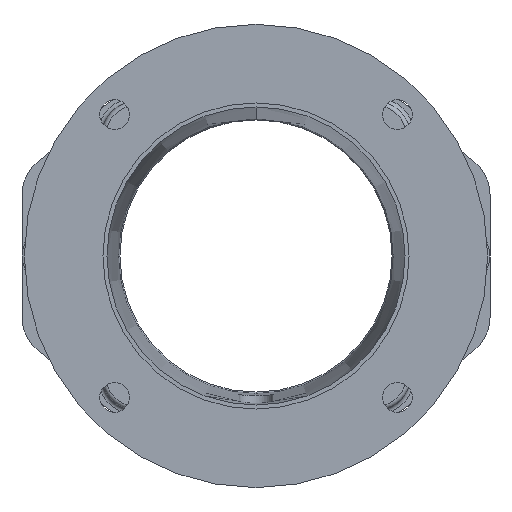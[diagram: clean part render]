
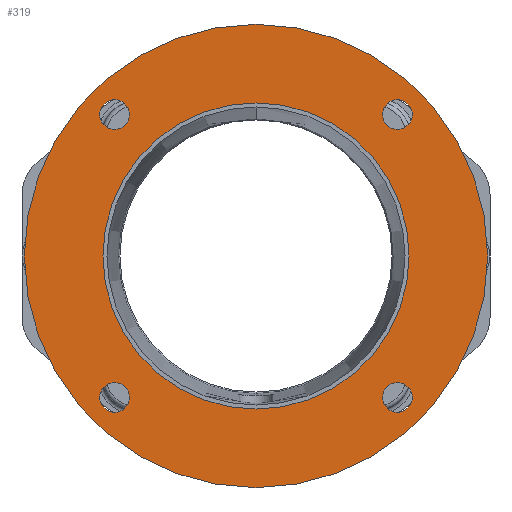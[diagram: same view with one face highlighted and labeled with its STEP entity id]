
A CAD part, front view. The second image highlights one B-rep face of the part: STEP entity #319.
In plain terms, the highlighted planar face has unit normal (0, -1, 0).
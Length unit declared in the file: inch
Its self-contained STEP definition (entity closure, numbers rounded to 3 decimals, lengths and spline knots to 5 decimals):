
#49 = EDGE_CURVE ( 'NONE', #2456, #4057, #2791, .T. ) ;
#71 = ORIENTED_EDGE ( 'NONE', *, *, #1820, .F. ) ;
#183 = EDGE_CURVE ( 'NONE', #227, #3077, #5068, .T. ) ;
#227 = VERTEX_POINT ( 'NONE', #3120 ) ;
#278 = CARTESIAN_POINT ( 'NONE',  ( 0., 0., 0. ) ) ;
#319 = ADVANCED_FACE ( 'NONE', ( #3147, #4071, #1936, #2858, #1650, #458 ), #4528, .F. ) ;
#329 = CARTESIAN_POINT ( 'NONE',  ( 2.07889, 0., 2.07889 ) ) ;
#411 = CIRCLE ( 'NONE', #3106, 2.2505 ) ;
#458 = FACE_OUTER_BOUND ( 'NONE', #5434, .T. ) ;
#471 = CARTESIAN_POINT ( 'NONE',  ( 2.07889, 0., -2.29764 ) ) ;
#532 = ORIENTED_EDGE ( 'NONE', *, *, #183, .F. ) ;
#569 = CARTESIAN_POINT ( 'NONE',  ( 0., 0., 3.405 ) ) ;
#625 = EDGE_LOOP ( 'NONE', ( #5573, #3319 ) ) ;
#686 = DIRECTION ( 'NONE',  ( 0., -1., 0. ) ) ;
#733 = ORIENTED_EDGE ( 'NONE', *, *, #49, .F. ) ;
#740 = CARTESIAN_POINT ( 'NONE',  ( -2.07889, 0., -2.07889 ) ) ;
#741 = DIRECTION ( 'NONE',  ( 0., 0., -1. ) ) ;
#761 = VERTEX_POINT ( 'NONE', #1082 ) ;
#789 = DIRECTION ( 'NONE',  ( 0., 0., -1. ) ) ;
#871 = DIRECTION ( 'NONE',  ( 0., -1., 0. ) ) ;
#924 = CARTESIAN_POINT ( 'NONE',  ( -2.19684, 0., 0. ) ) ;
#1038 = EDGE_CURVE ( 'NONE', #4057, #2456, #2195, .T. ) ;
#1053 = AXIS2_PLACEMENT_3D ( 'NONE', #924, #1824, #5005 ) ;
#1082 = CARTESIAN_POINT ( 'NONE',  ( -2.07889, 0., 1.86014 ) ) ;
#1100 = CARTESIAN_POINT ( 'NONE',  ( -2.07889, 0., 2.07889 ) ) ;
#1103 = EDGE_LOOP ( 'NONE', ( #2774, #733 ) ) ;
#1143 = AXIS2_PLACEMENT_3D ( 'NONE', #278, #3439, #741 ) ;
#1144 = EDGE_CURVE ( 'NONE', #4096, #3041, #1490, .T. ) ;
#1225 = CARTESIAN_POINT ( 'NONE',  ( -2.07889, 0., -2.07889 ) ) ;
#1322 = EDGE_CURVE ( 'NONE', #4878, #761, #4116, .T. ) ;
#1353 = VERTEX_POINT ( 'NONE', #4114 ) ;
#1490 = CIRCLE ( 'NONE', #5377, 0.21875 ) ;
#1541 = DIRECTION ( 'NONE',  ( 0., 0., -1. ) ) ;
#1545 = EDGE_CURVE ( 'NONE', #761, #4878, #2049, .T. ) ;
#1622 = CARTESIAN_POINT ( 'NONE',  ( 0., 0., 0. ) ) ;
#1650 = FACE_BOUND ( 'NONE', #4463, .T. ) ;
#1679 = DIRECTION ( 'NONE',  ( 0., 0., -1. ) ) ;
#1704 = EDGE_CURVE ( 'NONE', #3673, #3948, #4825, .T. ) ;
#1820 = EDGE_CURVE ( 'NONE', #3077, #227, #3326, .T. ) ;
#1824 = DIRECTION ( 'NONE',  ( 0., 1., 0. ) ) ;
#1936 = FACE_BOUND ( 'NONE', #1103, .T. ) ;
#2049 = CIRCLE ( 'NONE', #2706, 0.21875 ) ;
#2059 = AXIS2_PLACEMENT_3D ( 'NONE', #740, #4258, #2153 ) ;
#2070 = DIRECTION ( 'NONE',  ( 0., -1., 0. ) ) ;
#2075 = DIRECTION ( 'NONE',  ( 0., 0., -1. ) ) ;
#2153 = DIRECTION ( 'NONE',  ( 0., 0., -1. ) ) ;
#2195 = CIRCLE ( 'NONE', #2938, 0.21875 ) ;
#2248 = DIRECTION ( 'NONE',  ( 0., -1., 0. ) ) ;
#2276 = EDGE_CURVE ( 'NONE', #3041, #4096, #2970, .T. ) ;
#2279 = CARTESIAN_POINT ( 'NONE',  ( 2.07889, 0., 2.29764 ) ) ;
#2298 = CIRCLE ( 'NONE', #1143, 3.405 ) ;
#2318 = CARTESIAN_POINT ( 'NONE',  ( -2.07889, 0., 2.07889 ) ) ;
#2437 = CIRCLE ( 'NONE', #2438, 3.405 ) ;
#2438 = AXIS2_PLACEMENT_3D ( 'NONE', #3384, #686, #3847 ) ;
#2456 = VERTEX_POINT ( 'NONE', #3208 ) ;
#2516 = CARTESIAN_POINT ( 'NONE',  ( 2.07889, 0., -2.07889 ) ) ;
#2538 = CARTESIAN_POINT ( 'NONE',  ( 2.07889, 0., 2.07889 ) ) ;
#2706 = AXIS2_PLACEMENT_3D ( 'NONE', #1100, #4270, #1541 ) ;
#2774 = ORIENTED_EDGE ( 'NONE', *, *, #1038, .F. ) ;
#2778 = DIRECTION ( 'NONE',  ( 0., 0., -1. ) ) ;
#2791 = CIRCLE ( 'NONE', #5537, 0.21875 ) ;
#2858 = FACE_BOUND ( 'NONE', #4081, .T. ) ;
#2904 = AXIS2_PLACEMENT_3D ( 'NONE', #1622, #4801, #2075 ) ;
#2938 = AXIS2_PLACEMENT_3D ( 'NONE', #4987, #2248, #5444 ) ;
#2962 = DIRECTION ( 'NONE',  ( 0., 0., -1. ) ) ;
#2970 = CIRCLE ( 'NONE', #4817, 0.21875 ) ;
#3004 = DIRECTION ( 'NONE',  ( 0., 0., -1. ) ) ;
#3041 = VERTEX_POINT ( 'NONE', #2279 ) ;
#3077 = VERTEX_POINT ( 'NONE', #3221 ) ;
#3106 = AXIS2_PLACEMENT_3D ( 'NONE', #3580, #871, #4035 ) ;
#3120 = CARTESIAN_POINT ( 'NONE',  ( -2.07889, 0., -1.86014 ) ) ;
#3147 = FACE_BOUND ( 'NONE', #4380, .T. ) ;
#3208 = CARTESIAN_POINT ( 'NONE',  ( 2.07889, 0., -1.86014 ) ) ;
#3221 = CARTESIAN_POINT ( 'NONE',  ( -2.07889, 0., -2.29764 ) ) ;
#3265 = EDGE_CURVE ( 'NONE', #1353, #5031, #2437, .T. ) ;
#3319 = ORIENTED_EDGE ( 'NONE', *, *, #2276, .F. ) ;
#3326 = CIRCLE ( 'NONE', #4731, 0.21875 ) ;
#3384 = CARTESIAN_POINT ( 'NONE',  ( 0., 0., 0. ) ) ;
#3439 = DIRECTION ( 'NONE',  ( 0., -1., 0. ) ) ;
#3489 = DIRECTION ( 'NONE',  ( 0., -1., 0. ) ) ;
#3580 = CARTESIAN_POINT ( 'NONE',  ( 0., 0., 0. ) ) ;
#3614 = ORIENTED_EDGE ( 'NONE', *, *, #1322, .F. ) ;
#3673 = VERTEX_POINT ( 'NONE', #3765 ) ;
#3675 = ORIENTED_EDGE ( 'NONE', *, *, #5183, .T. ) ;
#3765 = CARTESIAN_POINT ( 'NONE',  ( 0., 0., -2.2505 ) ) ;
#3847 = DIRECTION ( 'NONE',  ( 0., 0., -1. ) ) ;
#3948 = VERTEX_POINT ( 'NONE', #4955 ) ;
#4010 = ORIENTED_EDGE ( 'NONE', *, *, #3265, .T. ) ;
#4035 = DIRECTION ( 'NONE',  ( 0., 0., -1. ) ) ;
#4057 = VERTEX_POINT ( 'NONE', #471 ) ;
#4071 = FACE_BOUND ( 'NONE', #625, .T. ) ;
#4081 = EDGE_LOOP ( 'NONE', ( #71, #532 ) ) ;
#4096 = VERTEX_POINT ( 'NONE', #4131 ) ;
#4102 = ORIENTED_EDGE ( 'NONE', *, *, #1704, .F. ) ;
#4114 = CARTESIAN_POINT ( 'NONE',  ( 0., 0., -3.405 ) ) ;
#4116 = CIRCLE ( 'NONE', #5580, 0.21875 ) ;
#4131 = CARTESIAN_POINT ( 'NONE',  ( 2.07889, 0., 1.86014 ) ) ;
#4258 = DIRECTION ( 'NONE',  ( 0., -1., 0. ) ) ;
#4270 = DIRECTION ( 'NONE',  ( 0., -1., 0. ) ) ;
#4380 = EDGE_LOOP ( 'NONE', ( #4790, #3614 ) ) ;
#4408 = DIRECTION ( 'NONE',  ( 0., -1., 0. ) ) ;
#4430 = ORIENTED_EDGE ( 'NONE', *, *, #4721, .F. ) ;
#4463 = EDGE_LOOP ( 'NONE', ( #4102, #4430 ) ) ;
#4525 = CARTESIAN_POINT ( 'NONE',  ( -2.07889, 0., 2.29764 ) ) ;
#4528 = PLANE ( 'NONE',  #1053 ) ;
#4721 = EDGE_CURVE ( 'NONE', #3948, #3673, #411, .T. ) ;
#4731 = AXIS2_PLACEMENT_3D ( 'NONE', #1225, #4408, #1679 ) ;
#4790 = ORIENTED_EDGE ( 'NONE', *, *, #1545, .F. ) ;
#4801 = DIRECTION ( 'NONE',  ( 0., -1., 0. ) ) ;
#4817 = AXIS2_PLACEMENT_3D ( 'NONE', #329, #3489, #789 ) ;
#4825 = CIRCLE ( 'NONE', #2904, 2.2505 ) ;
#4878 = VERTEX_POINT ( 'NONE', #4525 ) ;
#4955 = CARTESIAN_POINT ( 'NONE',  ( 0., 0., 2.2505 ) ) ;
#4987 = CARTESIAN_POINT ( 'NONE',  ( 2.07889, 0., -2.07889 ) ) ;
#5005 = DIRECTION ( 'NONE',  ( 0., 0., 1. ) ) ;
#5031 = VERTEX_POINT ( 'NONE', #569 ) ;
#5068 = CIRCLE ( 'NONE', #2059, 0.21875 ) ;
#5183 = EDGE_CURVE ( 'NONE', #5031, #1353, #2298, .T. ) ;
#5377 = AXIS2_PLACEMENT_3D ( 'NONE', #2538, #5734, #3004 ) ;
#5434 = EDGE_LOOP ( 'NONE', ( #4010, #3675 ) ) ;
#5444 = DIRECTION ( 'NONE',  ( 0., 0., -1. ) ) ;
#5511 = DIRECTION ( 'NONE',  ( 0., -1., 0. ) ) ;
#5537 = AXIS2_PLACEMENT_3D ( 'NONE', #2516, #2070, #2962 ) ;
#5573 = ORIENTED_EDGE ( 'NONE', *, *, #1144, .F. ) ;
#5580 = AXIS2_PLACEMENT_3D ( 'NONE', #2318, #5511, #2778 ) ;
#5734 = DIRECTION ( 'NONE',  ( 0., -1., 0. ) ) ;
